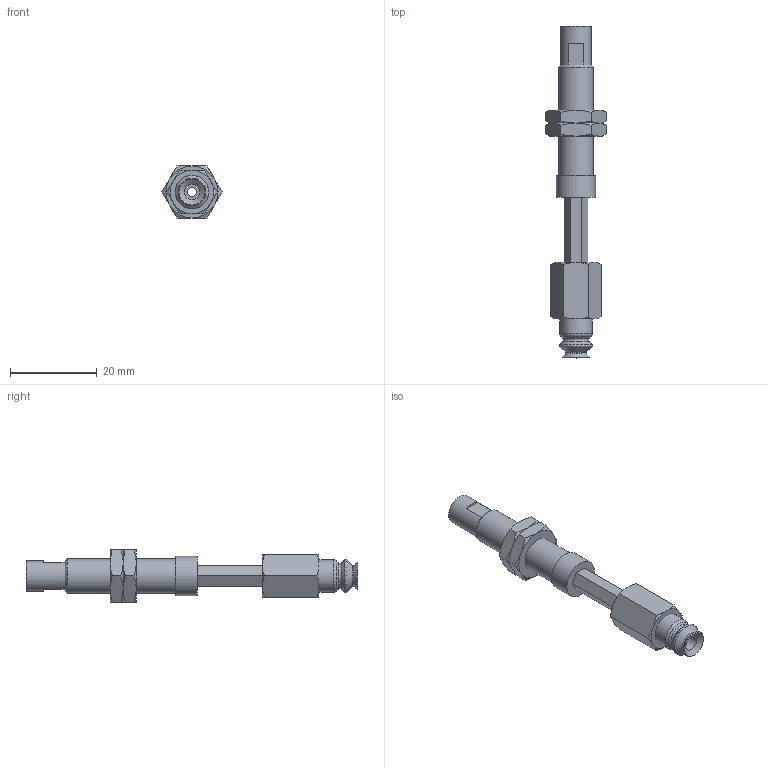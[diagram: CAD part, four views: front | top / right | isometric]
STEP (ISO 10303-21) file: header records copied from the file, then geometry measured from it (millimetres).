
FILE_DESCRIPTION(('STEP AP203'),'1');
FILE_NAME('.stp','2025-08-27T06:22:28',(' '),(' '),'Spatial InterOp 3D',' ',' ');
FILE_SCHEMA(('CONFIG_CONTROL_DESIGN'));
Length unit declared in the file: millimetre
Products named in the file (6): BNABPJTH-6-15-※; ADAPTER; NAPATH-10A-15--M; NAPJH-6-15-NUT; NAPJTH-6-15-FBODY; BPJG-6-※
Assembly tree (6 placements, depth 2):
  BNABPJTH-6-15-※
    ADAPTER
    NAPATH-10A-15--M
    NAPJH-6-15-NUT  x2
    NAPJTH-6-15-FBODY
    BPJG-6-※
Bounding box: 13.86 x 76.5 x 12 mm (x, y, z)
Volume: 3837.1 mm3; surface area: 4639.4 mm2
Topology: 6 solids, 6 shells, 125 faces, 274 edges, 166 vertices
Faces by surface type: plane 51, cone 49, cylinder 14, torus 11
Full cylindrical faces by diameter (mm): 2 x2, 3.64 x1, 4 x2, 4.134 x1, 6 x2, 7 x1, 7.188 x2, 7.5 x1, 8 x1, 9 x1
Entity records: 3020 total; most frequent: CARTESIAN_POINT 703, DIRECTION 422, ORIENTED_EDGE 358, AXIS2_PLACEMENT_3D 182, EDGE_CURVE 179, EDGE_LOOP 152, VERTEX_POINT 127, FACE_OUTER_BOUND 126
